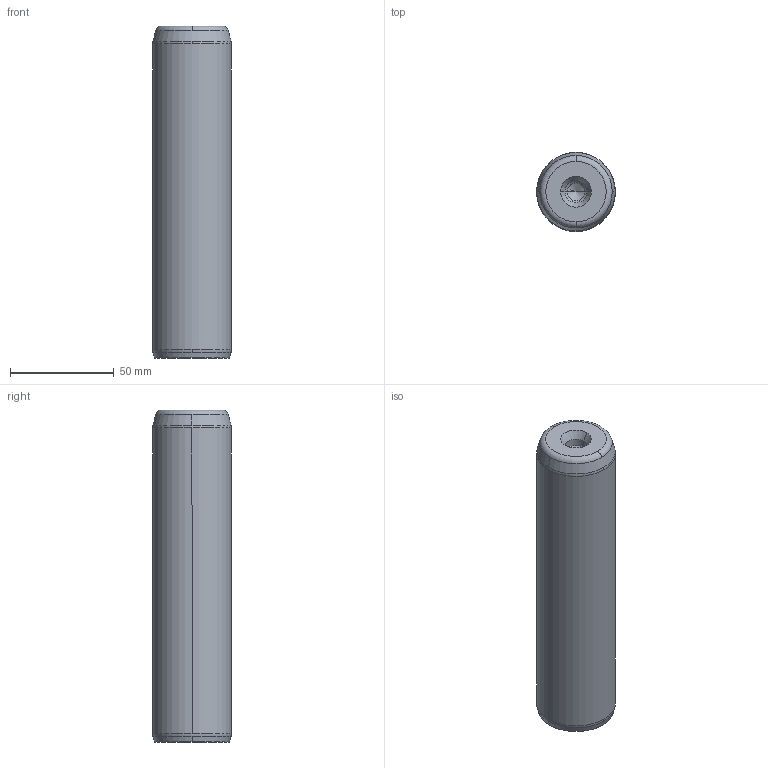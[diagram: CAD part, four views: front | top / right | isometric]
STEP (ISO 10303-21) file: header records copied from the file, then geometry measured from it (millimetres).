
FILE_DESCRIPTION((''),'2;1');
FILE_NAME('P10_038_160.stp','2008-12-23T15:14:10',(''),(''),'Mechanical Desktop 2009','Mechanical Desktop 2009',', , ');
FILE_SCHEMA(('CONFIG_CONTROL_DESIGN'));
Length unit declared in the file: millimetre
Products named in the file (5): Product; ProductAA; blmdl1; ProductA; blmdl1A
Assembly tree (2 placements, depth 3):
  Product
    ProductAA
      blmdl1
  ProductA
  blmdl1A
Bounding box: 38 x 38 x 160 mm (x, y, z)
Volume: 178025.2 mm3; surface area: 21721.2 mm2
Topology: 1 solids, 1 shells, 26 faces, 66 edges, 41 vertices
Faces by surface type: cone 10, torus 8, cylinder 6, plane 2
Entity records: 1012 total; most frequent: DIRECTION 170, CARTESIAN_POINT 134, ORIENTED_EDGE 128, AXIS2_PLACEMENT_3D 77, EDGE_CURVE 64, CIRCLE 48, VERTEX_POINT 41, EDGE_LOOP 27
